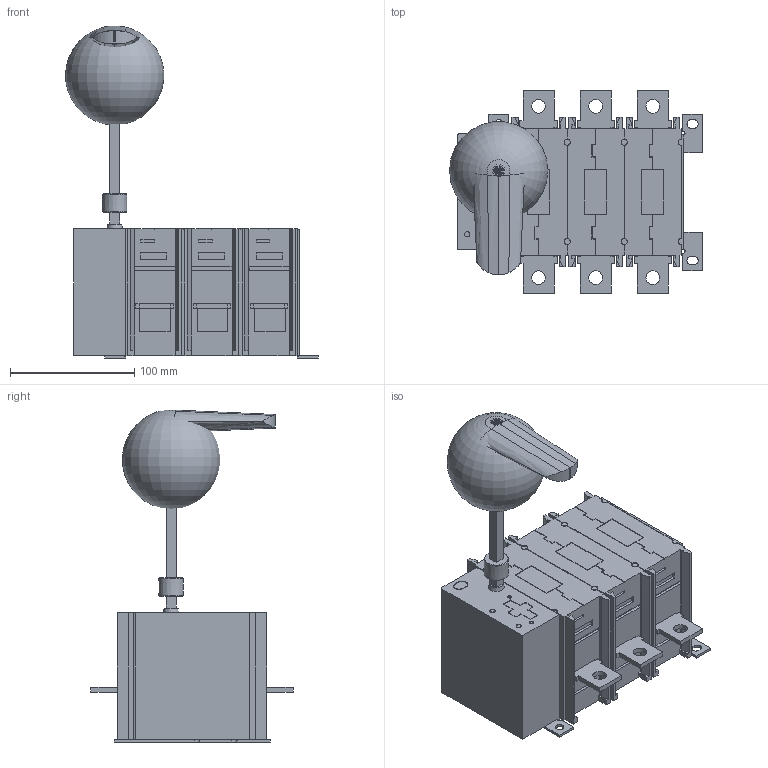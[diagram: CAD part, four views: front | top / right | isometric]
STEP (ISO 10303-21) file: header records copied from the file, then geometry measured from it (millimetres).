
FILE_DESCRIPTION (( 'STEP AP203' ), '1' );
FILE_NAME ('OptiSwitch DI-2-250-315-3P (m=3,0羱).STEP', '2023-02-25T21:54:31', ( '砐錪賧瘔蠈錪' ), ( '' ), 'SwSTEP 2.0', 'SolidWorks 2018', '' );
FILE_SCHEMA (( 'CONFIG_CONTROL_DESIGN' ));
Length unit declared in the file: millimetre
Products named in the file (1): OptiSwitch DI-2-250-315-3P (m=3,0羱)
Bounding box: 203.69 x 163 x 267.37 mm (x, y, z)
Volume: 1794708 mm3; surface area: 183222.5 mm2
Topology: 1 solids, 1 shells, 570 faces, 1576 edges, 1033 vertices
Faces by surface type: plane 497, cylinder 42, cone 19, bspline 9, torus 3
Full cylindrical faces by diameter (mm): 3 x2, 4.2 x2, 7 x2, 11 x6
Entity records: 18584 total; most frequent: CARTESIAN_POINT 4129, ORIENTED_EDGE 3078, DIRECTION 2714, EDGE_CURVE 1539, LINE 1390, VECTOR 1390, VERTEX_POINT 1025, AXIS2_PLACEMENT_3D 662
